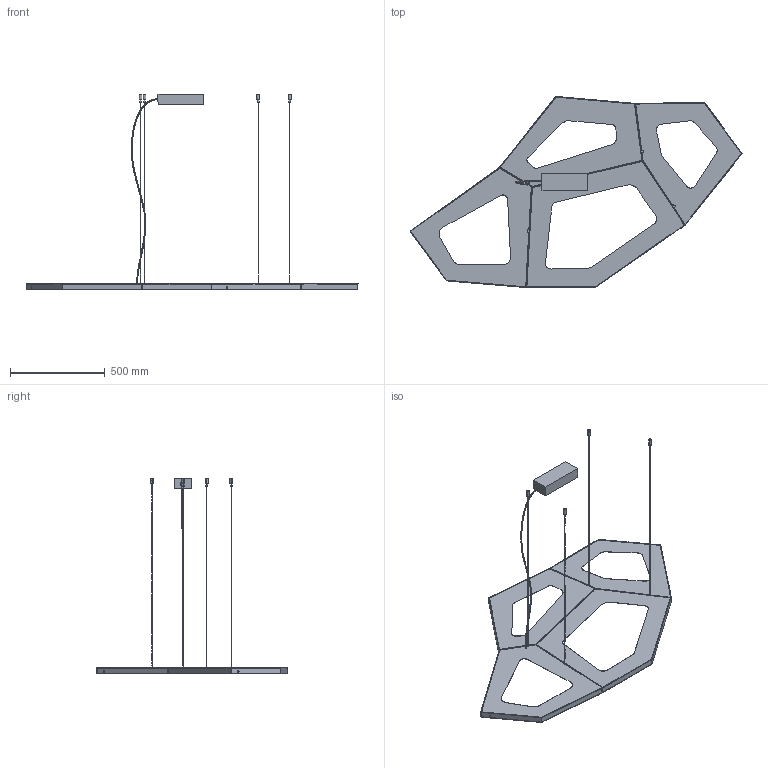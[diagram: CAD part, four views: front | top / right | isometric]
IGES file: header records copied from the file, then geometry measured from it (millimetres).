
Start section: SolidWorks IGES file using analytic representation for surfaces
Global section: file name: C:\Users\libre2.DOMINIO\Desktop\CARPYEN\3D\CLARIANA\NURA2_pendant.IGS; native system: SolidWorks 2014; preprocessor: SolidWorks 2014; author: libre2; date: 160314.103322; units: millimetre
Bounding box: 1753.69 x 1009.41 x 1034.65 mm (x, y, z)
Surface area: 3251094.7 mm2 (no closed solid volume)
Topology: 0 solids, 0 shells, 1647 faces, 20599 edges, 20577 vertices
Faces by surface type: bspline 898, revolution 749
